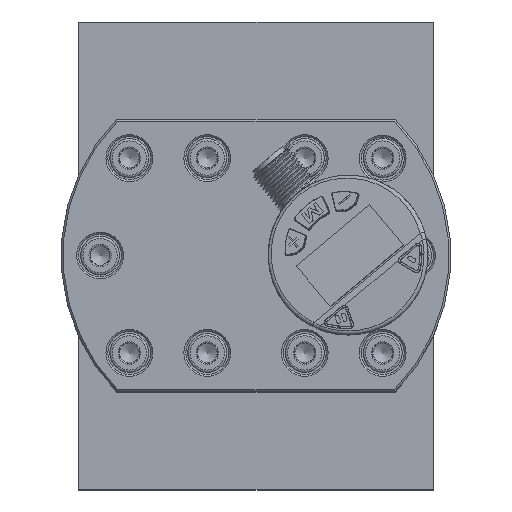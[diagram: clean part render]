
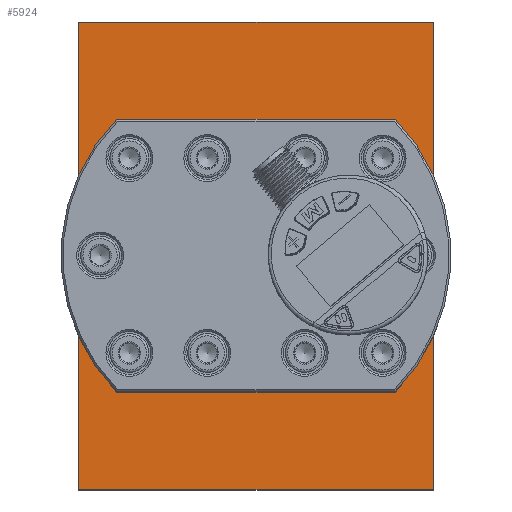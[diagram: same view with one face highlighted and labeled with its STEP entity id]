
A CAD part, top view. The second image highlights one B-rep face of the part: STEP entity #5924.
In plain terms, the highlighted planar face has unit normal (0, 0, 1).
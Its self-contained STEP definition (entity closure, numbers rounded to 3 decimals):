
#2021=LINE('',#45785,#3149);
#2025=LINE('',#45808,#3153);
#2029=LINE('',#45855,#3157);
#2031=LINE('',#45858,#3159);
#3149=VECTOR('',#25882,1.);
#3153=VECTOR('',#25892,1.);
#3157=VECTOR('',#25916,1.);
#3159=VECTOR('',#25920,1.);
#5924=ADVANCED_FACE('',(#7282,#7283,#7284,#7285,#7286,#7287,#7288),#6525,
 .F.);
#6525=PLANE('',#20668);
#7282=FACE_BOUND('',#8857,.T.);
#7283=FACE_BOUND('',#8858,.T.);
#7284=FACE_BOUND('',#8859,.T.);
#7285=FACE_BOUND('',#8860,.T.);
#7286=FACE_BOUND('',#8861,.T.);
#7287=FACE_BOUND('',#8862,.T.);
#7288=FACE_BOUND('',#8863,.T.);
#8857=EDGE_LOOP('',(#13553));
#8858=EDGE_LOOP('',(#13554));
#8859=EDGE_LOOP('',(#13555));
#8860=EDGE_LOOP('',(#13556));
#8861=EDGE_LOOP('',(#13557));
#8862=EDGE_LOOP('',(#13558));
#8863=EDGE_LOOP('',(#13559,#13560,#13561,#13562));
#13553=ORIENTED_EDGE('',*,*,#17660,.T.);
#13554=ORIENTED_EDGE('',*,*,#17661,.T.);
#13555=ORIENTED_EDGE('',*,*,#17662,.T.);
#13556=ORIENTED_EDGE('',*,*,#17663,.T.);
#13557=ORIENTED_EDGE('',*,*,#17664,.T.);
#13558=ORIENTED_EDGE('',*,*,#17665,.T.);
#13559=ORIENTED_EDGE('',*,*,#17656,.F.);
#13560=ORIENTED_EDGE('',*,*,#17633,.F.);
#13561=ORIENTED_EDGE('',*,*,#17658,.F.);
#13562=ORIENTED_EDGE('',*,*,#17641,.F.);
#15261=VERTEX_POINT('',#45786);
#15262=VERTEX_POINT('',#45787);
#15269=VERTEX_POINT('',#45809);
#15270=VERTEX_POINT('',#45810);
#15284=VERTEX_POINT('',#45863);
#15285=VERTEX_POINT('',#45865);
#15286=VERTEX_POINT('',#45867);
#15287=VERTEX_POINT('',#45869);
#15288=VERTEX_POINT('',#45871);
#15289=VERTEX_POINT('',#45873);
#17633=EDGE_CURVE('',#15261,#15262,#2021,.T.);
#17641=EDGE_CURVE('',#15269,#15270,#2025,.T.);
#17656=EDGE_CURVE('',#15262,#15269,#2029,.T.);
#17658=EDGE_CURVE('',#15270,#15261,#2031,.T.);
#17660=EDGE_CURVE('',#15284,#15284,#18597,.T.);
#17661=EDGE_CURVE('',#15285,#15285,#18598,.T.);
#17662=EDGE_CURVE('',#15286,#15286,#18599,.T.);
#17663=EDGE_CURVE('',#15287,#15287,#18600,.T.);
#17664=EDGE_CURVE('',#15288,#15288,#18601,.T.);
#17665=EDGE_CURVE('',#15289,#15289,#18602,.T.);
#18597=CIRCLE('',#20662,3.);
#18598=CIRCLE('',#20663,3.);
#18599=CIRCLE('',#20664,3.);
#18600=CIRCLE('',#20665,3.);
#18601=CIRCLE('',#20666,5.);
#18602=CIRCLE('',#20667,5.);
#20662=AXIS2_PLACEMENT_3D('',#45862,#25926,#25927);
#20663=AXIS2_PLACEMENT_3D('',#45864,#25928,#25929);
#20664=AXIS2_PLACEMENT_3D('',#45866,#25930,#25931);
#20665=AXIS2_PLACEMENT_3D('',#45868,#25932,#25933);
#20666=AXIS2_PLACEMENT_3D('',#45870,#25934,#25935);
#20667=AXIS2_PLACEMENT_3D('',#45872,#25936,#25937);
#20668=AXIS2_PLACEMENT_3D('',#45874,#25938,#25939);
#25882=DIRECTION('',(-1.,0.,0.));
#25892=DIRECTION('',(1.,0.,0.));
#25916=DIRECTION('',(0.,1.,0.));
#25920=DIRECTION('',(0.,-1.,0.));
#25926=DIRECTION('',(0.,0.,-1.));
#25927=DIRECTION('',(-1.,0.,0.));
#25928=DIRECTION('',(0.,0.,-1.));
#25929=DIRECTION('',(-1.,0.,0.));
#25930=DIRECTION('',(0.,0.,-1.));
#25931=DIRECTION('',(-1.,0.,0.));
#25932=DIRECTION('',(0.,0.,-1.));
#25933=DIRECTION('',(-1.,0.,0.));
#25934=DIRECTION('',(0.,0.,-1.));
#25935=DIRECTION('',(-1.,0.,0.));
#25936=DIRECTION('',(0.,0.,-1.));
#25937=DIRECTION('',(-1.,0.,0.));
#25938=DIRECTION('',(0.,0.,-1.));
#25939=DIRECTION('',(-1.,0.,0.));
#45785=CARTESIAN_POINT('',(35.707,-59.,5.));
#45786=CARTESIAN_POINT('',(45.5,-59.,5.));
#45787=CARTESIAN_POINT('',(-45.5,-59.,5.));
#45808=CARTESIAN_POINT('',(-35.707,61.,5.));
#45809=CARTESIAN_POINT('',(-45.5,61.,5.));
#45810=CARTESIAN_POINT('',(45.5,61.,5.));
#45855=CARTESIAN_POINT('',(-45.5,-34.,5.));
#45858=CARTESIAN_POINT('',(45.5,36.,5.));
#45862=CARTESIAN_POINT('',(-32.5,26.,5.));
#45863=CARTESIAN_POINT('',(-35.5,26.,5.));
#45864=CARTESIAN_POINT('',(32.5,26.,5.));
#45865=CARTESIAN_POINT('',(29.5,26.,5.));
#45866=CARTESIAN_POINT('',(32.5,-24.,5.));
#45867=CARTESIAN_POINT('',(29.5,-24.,5.));
#45868=CARTESIAN_POINT('',(-32.5,-24.,5.));
#45869=CARTESIAN_POINT('',(-35.5,-24.,5.));
#45870=CARTESIAN_POINT('',(0.,-8.5,5.));
#45871=CARTESIAN_POINT('',(-5.,-8.5,5.));
#45872=CARTESIAN_POINT('',(0.,10.5,5.));
#45873=CARTESIAN_POINT('',(-5.,10.5,5.));
#45874=CARTESIAN_POINT('',(0.,0.,5.));
